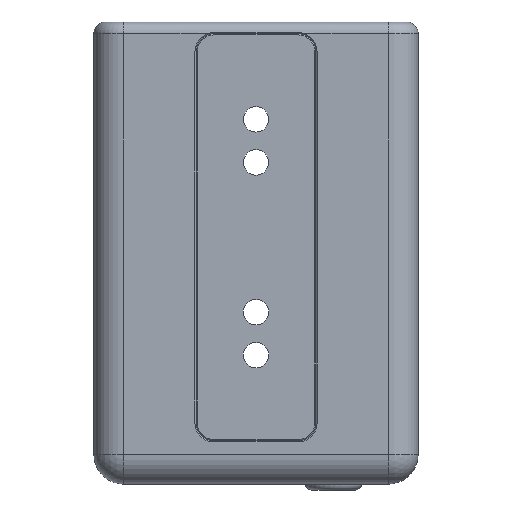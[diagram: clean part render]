
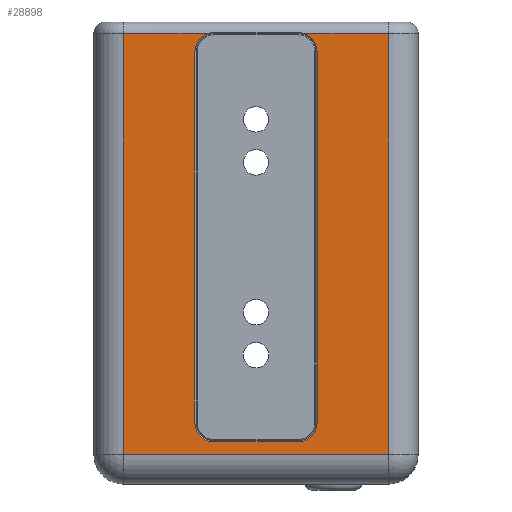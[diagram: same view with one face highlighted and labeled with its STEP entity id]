
A CAD part, left-side view. The second image highlights one B-rep face of the part: STEP entity #28898.
In plain terms, the highlighted planar face has unit normal (-1, 0, 0).
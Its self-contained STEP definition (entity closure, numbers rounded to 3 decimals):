
#175 = EDGE_CURVE ( 'NONE', #20616, #6145, #13058, .T. ) ;
#275 = ORIENTED_EDGE ( 'NONE', *, *, #2810, .T. ) ;
#317 = VECTOR ( 'NONE', #32800, 1000. ) ;
#445 = CARTESIAN_POINT ( 'NONE',  ( -39., 7.15, 7.15 ) ) ;
#589 = CARTESIAN_POINT ( 'NONE',  ( -39., 10.35, 78.4 ) ) ;
#926 = VERTEX_POINT ( 'NONE', #23890 ) ;
#957 = DIRECTION ( 'NONE',  ( 0., 0., -1. ) ) ;
#1053 = CARTESIAN_POINT ( 'NONE',  ( -39., 10.35, 10.35 ) ) ;
#1062 = PLANE ( 'NONE',  #18755 ) ;
#1083 = LINE ( 'NONE', #6696, #28170 ) ;
#1949 = VECTOR ( 'NONE', #26447, 1000. ) ;
#2545 = DIRECTION ( 'NONE',  ( 0., 0., -1. ) ) ;
#2810 = EDGE_CURVE ( 'NONE', #27826, #15885, #10413, .T. ) ;
#2858 = CARTESIAN_POINT ( 'NONE',  ( -39., 22.5, 76.4 ) ) ;
#3377 = EDGE_CURVE ( 'NONE', #17640, #18004, #1083, .T. ) ;
#3784 = ORIENTED_EDGE ( 'NONE', *, *, #28595, .T. ) ;
#3807 = DIRECTION ( 'NONE',  ( 0., 0., -1. ) ) ;
#3838 = LINE ( 'NONE', #27247, #11016 ) ;
#4287 = VERTEX_POINT ( 'NONE', #2858 ) ;
#4306 = VERTEX_POINT ( 'NONE', #24392 ) ;
#5297 = AXIS2_PLACEMENT_3D ( 'NONE', #30533, #14300, #33233 ) ;
#5977 = FACE_OUTER_BOUND ( 'NONE', #24353, .T. ) ;
#6114 = CIRCLE ( 'NONE', #6876, 3.2 ) ;
#6145 = VERTEX_POINT ( 'NONE', #30300 ) ;
#6439 = EDGE_CURVE ( 'NONE', #926, #27826, #16059, .T. ) ;
#6696 = CARTESIAN_POINT ( 'NONE',  ( -39., 27.5, 5. ) ) ;
#6777 = EDGE_CURVE ( 'NONE', #11442, #4287, #3838, .T. ) ;
#6876 = AXIS2_PLACEMENT_3D ( 'NONE', #34967, #18717, #2545 ) ;
#7254 = CARTESIAN_POINT ( 'NONE',  ( -39., -22.5, 5. ) ) ;
#7981 = DIRECTION ( 'NONE',  ( 1., 0., 0. ) ) ;
#8057 = CARTESIAN_POINT ( 'NONE',  ( -39., -22.5, 78.4 ) ) ;
#8119 = VERTEX_POINT ( 'NONE', #24840 ) ;
#8389 = LINE ( 'NONE', #16580, #317 ) ;
#8920 = VECTOR ( 'NONE', #18650, 1000. ) ;
#9009 = CARTESIAN_POINT ( 'NONE',  ( -39., 27.5, 78.4 ) ) ;
#10170 = ORIENTED_EDGE ( 'NONE', *, *, #32003, .T. ) ;
#10413 = CIRCLE ( 'NONE', #14266, 3.2 ) ;
#10758 = DIRECTION ( 'NONE',  ( 0., 0., 1. ) ) ;
#10821 = DIRECTION ( 'NONE',  ( 0., 1., 0. ) ) ;
#11016 = VECTOR ( 'NONE', #10821, 1000. ) ;
#11416 = LINE ( 'NONE', #8057, #32137 ) ;
#11442 = VERTEX_POINT ( 'NONE', #20297 ) ;
#11777 = ORIENTED_EDGE ( 'NONE', *, *, #12142, .F. ) ;
#12142 = EDGE_CURVE ( 'NONE', #25167, #15885, #15010, .T. ) ;
#12969 = LINE ( 'NONE', #28983, #24817 ) ;
#13058 = LINE ( 'NONE', #32930, #32928 ) ;
#13228 = CARTESIAN_POINT ( 'NONE',  ( -39., 27.5, 7.15 ) ) ;
#13237 = ORIENTED_EDGE ( 'NONE', *, *, #14040, .T. ) ;
#14040 = EDGE_CURVE ( 'NONE', #4306, #11442, #6114, .T. ) ;
#14090 = DIRECTION ( 'NONE',  ( 0., 1., 0. ) ) ;
#14266 = AXIS2_PLACEMENT_3D ( 'NONE', #14369, #33314, #17076 ) ;
#14300 = DIRECTION ( 'NONE',  ( 1., 0., 0. ) ) ;
#14369 = CARTESIAN_POINT ( 'NONE',  ( -39., 7.15, 10.35 ) ) ;
#15010 = LINE ( 'NONE', #589, #15826 ) ;
#15149 = ORIENTED_EDGE ( 'NONE', *, *, #16719, .T. ) ;
#15826 = VECTOR ( 'NONE', #957, 1000. ) ;
#15885 = VERTEX_POINT ( 'NONE', #1053 ) ;
#16059 = LINE ( 'NONE', #13228, #8920 ) ;
#16580 = CARTESIAN_POINT ( 'NONE',  ( -39., -10.35, 78.4 ) ) ;
#16719 = EDGE_CURVE ( 'NONE', #6145, #19970, #20744, .T. ) ;
#17076 = DIRECTION ( 'NONE',  ( 0., 0., -1. ) ) ;
#17640 = VERTEX_POINT ( 'NONE', #34258 ) ;
#18004 = VERTEX_POINT ( 'NONE', #7254 ) ;
#18107 = EDGE_CURVE ( 'NONE', #18004, #20616, #11416, .T. ) ;
#18650 = DIRECTION ( 'NONE',  ( 0., 1., 0. ) ) ;
#18717 = DIRECTION ( 'NONE',  ( 1., 0., 0. ) ) ;
#18755 = AXIS2_PLACEMENT_3D ( 'NONE', #9009, #19962, #3807 ) ;
#18991 = ORIENTED_EDGE ( 'NONE', *, *, #21464, .T. ) ;
#19680 = ORIENTED_EDGE ( 'NONE', *, *, #6777, .T. ) ;
#19962 = DIRECTION ( 'NONE',  ( 1., 0., 0. ) ) ;
#19970 = VERTEX_POINT ( 'NONE', #23861 ) ;
#20297 = CARTESIAN_POINT ( 'NONE',  ( -39., 8.264, 76.4 ) ) ;
#20616 = VERTEX_POINT ( 'NONE', #22349 ) ;
#20744 = CIRCLE ( 'NONE', #5297, 3.2 ) ;
#21247 = AXIS2_PLACEMENT_3D ( 'NONE', #24173, #7981, #26875 ) ;
#21464 = EDGE_CURVE ( 'NONE', #4287, #17640, #12969, .T. ) ;
#22349 = CARTESIAN_POINT ( 'NONE',  ( -39., -22.5, 76.4 ) ) ;
#23752 = CIRCLE ( 'NONE', #21247, 3.2 ) ;
#23861 = CARTESIAN_POINT ( 'NONE',  ( -39., -10.35, 73.4 ) ) ;
#23890 = CARTESIAN_POINT ( 'NONE',  ( -39., -7.15, 7.15 ) ) ;
#23984 = ORIENTED_EDGE ( 'NONE', *, *, #175, .T. ) ;
#24173 = CARTESIAN_POINT ( 'NONE',  ( -39., -7.15, 10.35 ) ) ;
#24353 = EDGE_LOOP ( 'NONE', ( #30999, #13237, #19680, #18991, #24569, #28489, #23984, #15149, #10170, #3784, #31604, #275, #11777 ) ) ;
#24392 = CARTESIAN_POINT ( 'NONE',  ( -39., 10.35, 73.4 ) ) ;
#24569 = ORIENTED_EDGE ( 'NONE', *, *, #3377, .T. ) ;
#24817 = VECTOR ( 'NONE', #29109, 1000. ) ;
#24840 = CARTESIAN_POINT ( 'NONE',  ( -39., -10.35, 10.35 ) ) ;
#25167 = VERTEX_POINT ( 'NONE', #28046 ) ;
#26447 = DIRECTION ( 'NONE',  ( 0., 0., 1. ) ) ;
#26875 = DIRECTION ( 'NONE',  ( 0., 0., -1. ) ) ;
#27247 = CARTESIAN_POINT ( 'NONE',  ( -39., 22.5, 76.4 ) ) ;
#27826 = VERTEX_POINT ( 'NONE', #445 ) ;
#28046 = CARTESIAN_POINT ( 'NONE',  ( -39., 10.35, 40. ) ) ;
#28170 = VECTOR ( 'NONE', #31038, 1000. ) ;
#28489 = ORIENTED_EDGE ( 'NONE', *, *, #18107, .T. ) ;
#28595 = EDGE_CURVE ( 'NONE', #8119, #926, #23752, .T. ) ;
#28898 = ADVANCED_FACE ( 'NONE', ( #5977 ), #1062, .F. ) ;
#28983 = CARTESIAN_POINT ( 'NONE',  ( -39., 22.5, 78.4 ) ) ;
#29109 = DIRECTION ( 'NONE',  ( 0., 0., -1. ) ) ;
#29899 = LINE ( 'NONE', #31868, #1949 ) ;
#30300 = CARTESIAN_POINT ( 'NONE',  ( -39., -8.264, 76.4 ) ) ;
#30533 = CARTESIAN_POINT ( 'NONE',  ( -39., -7.15, 73.4 ) ) ;
#30999 = ORIENTED_EDGE ( 'NONE', *, *, #34462, .T. ) ;
#31038 = DIRECTION ( 'NONE',  ( 0., -1., 0. ) ) ;
#31604 = ORIENTED_EDGE ( 'NONE', *, *, #6439, .T. ) ;
#31868 = CARTESIAN_POINT ( 'NONE',  ( -39., 10.35, 78.4 ) ) ;
#32003 = EDGE_CURVE ( 'NONE', #19970, #8119, #8389, .T. ) ;
#32137 = VECTOR ( 'NONE', #10758, 1000. ) ;
#32800 = DIRECTION ( 'NONE',  ( 0., 0., -1. ) ) ;
#32928 = VECTOR ( 'NONE', #14090, 1000. ) ;
#32930 = CARTESIAN_POINT ( 'NONE',  ( -39., 22.5, 76.4 ) ) ;
#33233 = DIRECTION ( 'NONE',  ( 0., 0., -1. ) ) ;
#33314 = DIRECTION ( 'NONE',  ( 1., 0., 0. ) ) ;
#34258 = CARTESIAN_POINT ( 'NONE',  ( -39., 22.5, 5. ) ) ;
#34462 = EDGE_CURVE ( 'NONE', #25167, #4306, #29899, .T. ) ;
#34967 = CARTESIAN_POINT ( 'NONE',  ( -39., 7.15, 73.4 ) ) ;
